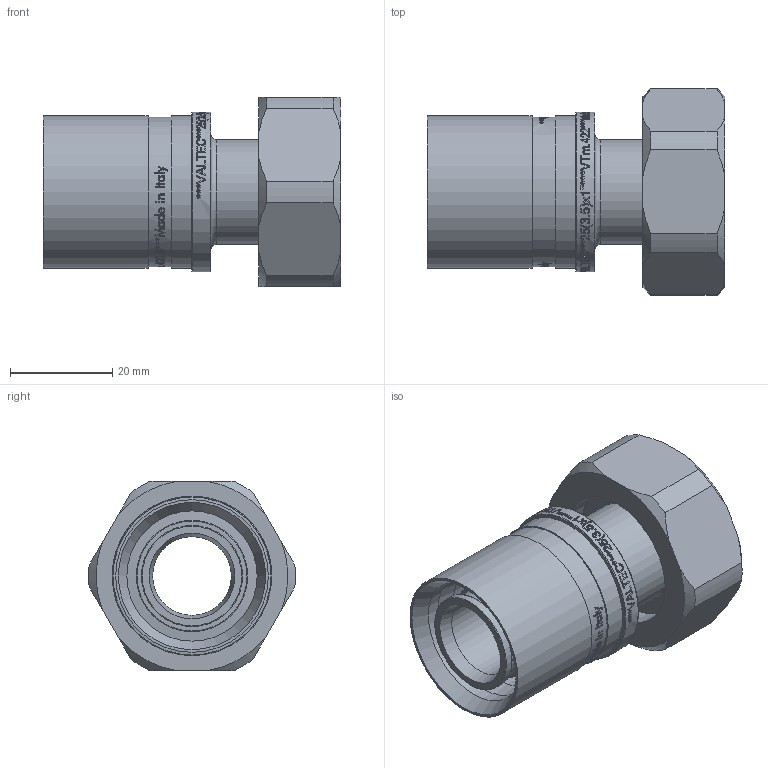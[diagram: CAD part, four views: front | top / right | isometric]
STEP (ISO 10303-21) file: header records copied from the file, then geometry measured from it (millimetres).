
FILE_DESCRIPTION(/* description */ (''),/* implementation_level */ '2;1');
FILE_NAME(/* name */ 'F:\Артём\00000\Работа удаленка\Аксеальные фитинги\VTm.422.BG.002506.stp',/* time_stamp */ '2021-01-26T11:28:03+03:00',/* author */ ('almis'),/* organization */ (''),/* preprocessor_version */ 'ST-DEVELOPER v18',/* originating_system */ 'Autodesk Inventor 2020',/* authorisation */ '');
FILE_SCHEMA (('AUTOMOTIVE_DESIGN { 1 0 10303 214 3 1 1 }'));
Products named in the file (1): VTm.403.BG.001616
Bounding box: 58.21 x 40.48 x 37 mm (x, y, z)
Volume: 21839 mm3; surface area: 18767 mm2
Topology: 2 solids, 2 shells, 1364 faces, 3763 edges, 2530 vertices
Faces by surface type: bspline 768, plane 403, cylinder 148, torus 26, cone 19
Full cylindrical faces by diameter (mm): 15.4 x1, 18.3 x5, 19.8 x4, 20.5 x1, 21.8 x1, 25.35 x1, 25.5 x2, 26.9 x2, 27 x1, 29.3 x1, 29.85 x2, 30.2 x2, 31.2 x1, 34.8 x4
Entity records: 58592 total; most frequent: CARTESIAN_POINT 28468, ORIENTED_EDGE 7526, DIRECTION 4020, EDGE_CURVE 3763, VERTEX_POINT 2530, B_SPLINE_CURVE_WITH_KNOTS 1556, LINE 1540, VECTOR 1540
